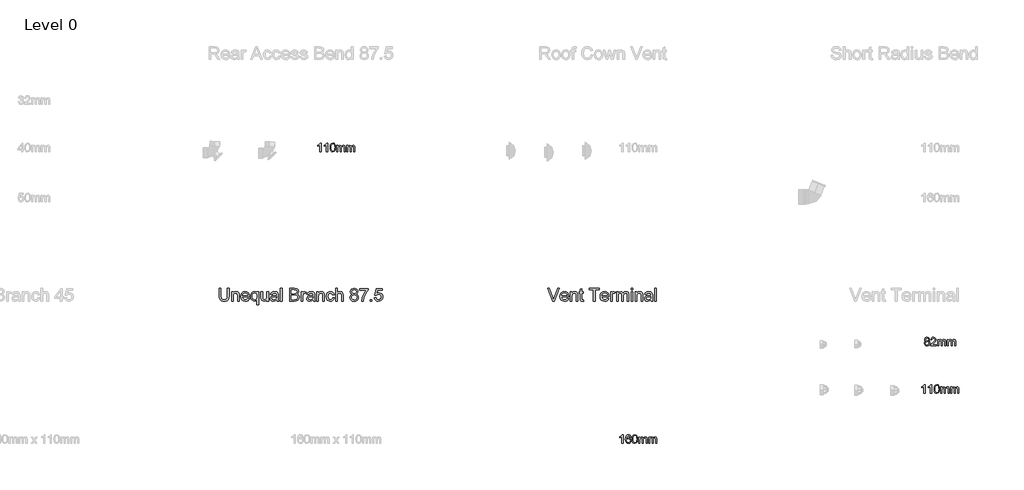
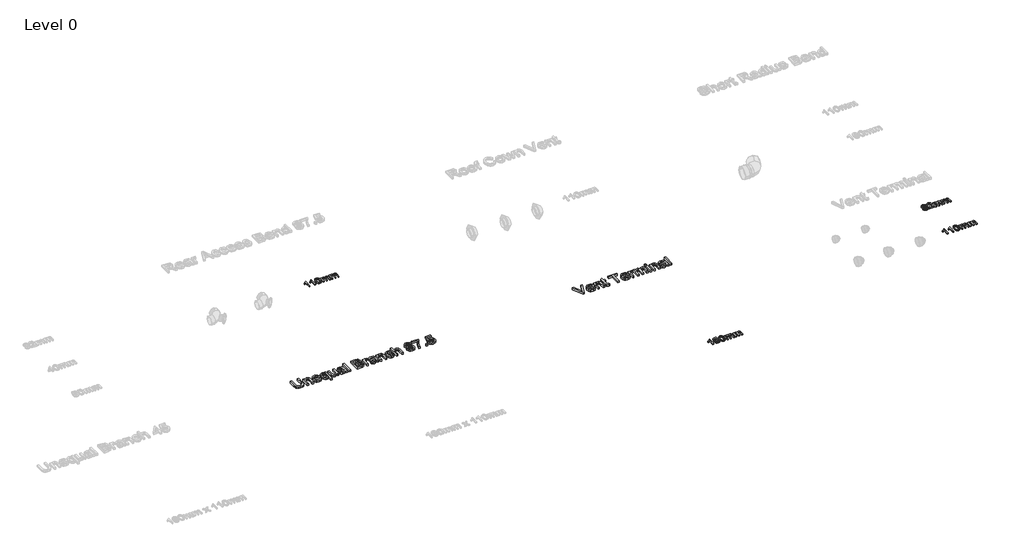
# One storey, part 7 of 28: 6 proxies.
"""IFC4 building model written with IfcOpenShell, lengths in millimetres."""

import ifcopenshell
import ifcopenshell.guid

model = None  # the IFC model being written
_history = None  # IfcOwnerHistory: only IFC2X3 demands one
_inside = {}  # id of a spatial element -> (the spatial element, [elements in it])
_under = {}  # id of a project, library or spatial element -> (it, [spatial elements below it])
_declared = {}  # id of a project -> (the project, [libraries it declares])
_typed = {}  # id of a type object -> (the type object, [elements of that type])
_made_of = {}  # id of a material, layer set ... -> (it, [elements and type objects made of it])


def new_model(schema):
    """Start an empty IFC model of exactly this schema.

    Asked for "IFC4X3", IfcOpenShell would pick the latest addendum, in which some entities
    have other attributes; the version numbers below select the first issue.
    IFC2X3 requires an IfcOwnerHistory on every rooted entity: one is made here for all.
    """
    global model, _history
    if schema == "IFC4X3":
        model = ifcopenshell.file(schema_version=(4, 3, 0, 0))
    else:
        model = ifcopenshell.file(schema=schema)
    _inside.clear()
    _under.clear()
    _declared.clear()
    _typed.clear()
    _made_of.clear()
    _history = None
    if model.schema == "IFC2X3":
        org = make("IfcOrganization", Name="unknown")
        user = make(
            "IfcPersonAndOrganization",
            ThePerson=make("IfcPerson", FamilyName="unknown"),
            TheOrganization=org,
        )
        app = make(
            "IfcApplication",
            ApplicationDeveloper=org,
            Version="unknown",
            ApplicationFullName="unknown",
            ApplicationIdentifier="unknown",
        )
        _history = make(
            "IfcOwnerHistory",
            OwningUser=user,
            OwningApplication=app,
            ChangeAction="ADDED",
            CreationDate=0,
        )
    return model


def make(cls, **values):
    """One entity of the class cls with the attributes given. An attribute that is None is left unset."""
    return model.create_entity(
        cls, **{name: value for name, value in values.items() if value is not None}
    )


def rooted(cls, **values):
    """An entity with a GlobalId (a new one), such as an element, a storey or a relation."""
    return make(cls, GlobalId=ifcopenshell.guid.new(), OwnerHistory=_history, **values)


def si_unit(unit_type, name, prefix=None):
    """IfcSIUnit, for example si_unit("LENGTHUNIT", "METRE", prefix="MILLI")."""
    return make("IfcSIUnit", UnitType=unit_type, Prefix=prefix, Name=name)


def assignment(units):
    """IfcUnitAssignment: the units of a project."""
    return None if units is None else make("IfcUnitAssignment", Units=units)


def point(xyz):
    """IfcCartesianPoint."""
    return None if xyz is None else make("IfcCartesianPoint", Coordinates=xyz)


def direction(xyz):
    """IfcDirection."""
    return None if xyz is None else make("IfcDirection", DirectionRatios=xyz)


def frame(location, z_axis=None, x_axis=None):
    """IfcAxis2Placement3D, a coordinate frame: its origin and axes. An axis left out is left unset."""
    return make(
        "IfcAxis2Placement3D",
        Location=point(location),
        Axis=direction(z_axis),
        RefDirection=direction(x_axis),
    )


def origin():
    """The frame at (0, 0, 0) with its axes left unset."""
    return frame((0.0, 0.0, 0.0))


def origin_with_axes():
    """The frame at (0, 0, 0) with the z axis (0, 0, 1) and the x axis (1, 0, 0) written out."""
    return frame((0.0, 0.0, 0.0), z_axis=(0.0, 0.0, 1.0), x_axis=(1.0, 0.0, 0.0))


def place(relative_to, where):
    """IfcLocalPlacement: puts the frame where relative to a parent placement (None: the world)."""
    return make(
        "IfcLocalPlacement", PlacementRelTo=relative_to, RelativePlacement=where
    )


def context(
    kind, dimensions, precision=None, world=None, true_north=None, identifier=None
):
    """IfcGeometricRepresentationContext, for example the 3D "Model" context."""
    return make(
        "IfcGeometricRepresentationContext",
        ContextIdentifier=identifier,
        ContextType=kind,
        CoordinateSpaceDimension=dimensions,
        Precision=precision,
        WorldCoordinateSystem=world,
        TrueNorth=true_north,
    )


def project(units=None, contexts=None):
    """IfcProject with its units and contexts."""
    return rooted(
        "IfcProject",
        Name="project",
        RepresentationContexts=contexts,
        UnitsInContext=assignment(units),
    )


def spatial(cls, under=None, at=None, **own):
    """A site, building, storey or space (cls), placed at a placement, below another one or the project."""
    s = rooted(cls, ObjectPlacement=at, **own)
    if under is not None:
        _under.setdefault(under.id(), (under, []))[1].append(s)
    return s


def polyline(points):
    """IfcPolyline through the points."""
    return make("IfcPolyline", Points=[point(p) for p in points])


def outline(outer, holes=None, kind="AREA"):
    """IfcArbitraryClosedProfileDef: a profile drawn as a closed curve; with holes, ...WithVoids."""
    if holes is None:
        return make("IfcArbitraryClosedProfileDef", ProfileType=kind, OuterCurve=outer)
    return make(
        "IfcArbitraryProfileDefWithVoids",
        ProfileType=kind,
        OuterCurve=outer,
        InnerCurves=holes,
    )


def extrude(swept, where, along, depth):
    """IfcExtrudedAreaSolid: the profile swept, set in the frame where, extruded along a direction by depth."""
    return make(
        "IfcExtrudedAreaSolid",
        SweptArea=swept,
        Position=where,
        ExtrudedDirection=direction(along),
        Depth=depth,
    )


def shape(context_of_items, identifier, shape_type, items):
    """IfcShapeRepresentation: the items that make up one representation, for example the "Body"."""
    return make(
        "IfcShapeRepresentation",
        ContextOfItems=context_of_items,
        RepresentationIdentifier=identifier,
        RepresentationType=shape_type,
        Items=items,
    )


def made_of(thing, what):
    """Note that an element or type object is made of a material, layer set ...; save() writes the relation."""
    if what is not None:
        _made_of.setdefault(what.id(), (what, []))[1].append(thing)
    return thing


def element(
    cls,
    number,
    at=None,
    inside=None,
    cuts=None,
    type_object=None,
    material=None,
    context=None,
    identifier="Body",
    shape_type=None,
    held_by="IfcProductDefinitionShape",
    body=None,
    shapes=None,
    **own,
):
    """One element of the class cls, such as IfcWall. Its Tag is "e" and its number.

    at: its placement. inside: the storey or other place that contains it. cuts: it is an
    opening in that element (IfcRelVoidsElement). A single representation is given by context,
    identifier, shape_type and body (its items); several are given by shapes. held_by: the class
    of the entity that holds the representations. save() writes the other relations.
    """
    e = rooted(cls, Tag="e%d" % number, ObjectPlacement=at, **own)
    if body is not None:
        shapes = [shape(context, identifier, shape_type, body)]
    if shapes is not None:
        e.Representation = make(held_by, Representations=shapes)
    if inside is not None:
        _inside.setdefault(inside.id(), (inside, []))[1].append(e)
    if cuts is not None:
        rooted(
            "IfcRelVoidsElement", RelatingBuildingElement=cuts, RelatedOpeningElement=e
        )
    if type_object is not None:
        _typed.setdefault(type_object.id(), (type_object, []))[1].append(e)
    return made_of(e, material)


def aggregate(whole, parts):
    """IfcRelAggregates: a whole, such as a stair, and the parts it consists of."""
    return rooted("IfcRelAggregates", RelatingObject=whole, RelatedObjects=parts)


def save(model, path):
    """Write the relations noted so far, then the file.

    IfcRelAggregates (storeys below a building ...), IfcRelContainedInSpatialStructure (elements
    in a storey), IfcRelDefinesByType, IfcRelAssociatesMaterial and IfcRelDeclares: one each for
    every whole, place, type object, material and project.
    """
    for whole, parts in _under.values():
        aggregate(whole, parts)
    for where, things in _inside.values():
        rooted(
            "IfcRelContainedInSpatialStructure",
            RelatedElements=things,
            RelatingStructure=where,
        )
    for kind, things in _typed.values():
        rooted("IfcRelDefinesByType", RelatedObjects=things, RelatingType=kind)
    for what, things in _made_of.values():
        rooted("IfcRelAssociatesMaterial", RelatedObjects=things, RelatingMaterial=what)
    for by, libraries in _declared.values():
        rooted("IfcRelDeclares", RelatingContext=by, RelatedDefinitions=libraries)
    model.write(path)


model = new_model("IFC4")

# Units and contexts
model_context = context("Model", 3, world=origin())
ifc_project = project(units=[si_unit("LENGTHUNIT", "METRE", prefix="MILLI")], contexts=[model_context])

# Site, building, storey
site = spatial("IfcSite", under=ifc_project)
building = spatial("IfcBuilding", under=site)
storey = spatial("IfcBuildingStorey", under=building, Name="Level 0", Elevation=0.0)

# Proxies
placement = place(None, origin())
element("IfcBuildingElementProxy", 1, Name="100mm Arial", ObjectType="100mm Arial", at=placement, inside=storey, context=model_context, shape_type="SweptSolid", body=[
    extrude(outline(polyline([(-3291.7293188, -162.2832696), (-3304.0370111, -162.2832696), (-3304.0370111, -85.5525004), (-3315.6956649, -93.8577889), (-3328.6523957, -100.0717312), (-3328.6523957, -88.4371158), (-3310.6115303, -76.9226927), (-3299.6620111, -63.8217312), (-3291.7293188, -63.8217312), (-3291.7293188, -162.2832696)])), origin_with_axes(), (0.0, 0.0, 1.0), 15.0),
    extrude(outline(polyline([(-3216.3447034, -162.2832696), (-3228.6523957, -162.2832696), (-3228.6523957, -85.5525004), (-3240.3110495, -93.8577889), (-3253.2677803, -100.0717312), (-3253.2677803, -88.4371158), (-3235.2269149, -76.9226927), (-3224.2773957, -63.8217312), (-3216.3447034, -63.8217312), (-3216.3447034, -162.2832696)])), origin_with_axes(), (0.0, 0.0, 1.0), 15.0),
    extrude(outline(polyline([(-3187.1139341, -113.8457696), (-3183.4961457, -85.5164427), (-3172.7509534, -69.1823081), (-3154.8062418, -63.8217312), (-3140.4312418, -66.9948081), (-3130.5033572, -76.1414427), (-3124.7341264, -90.7087504), (-3122.4985495, -113.8457696), (-3126.0802803, -142.0549042), (-3136.7894149, -158.4250965), (-3154.8062418, -163.8217312), (-3167.5947034, -161.4779812), (-3177.3062418, -154.4467312), (-3184.6620111, -137.7940869), (-3187.1139341, -113.8457696)]), holes=[polyline([(-3174.8062418, -113.8217312), (-3173.3639341, -133.1817071), (-3169.0370111, -144.386635), (-3162.5947034, -149.7321879), (-3154.8062418, -151.5140389), (-3147.0177803, -149.7261783), (-3140.5754726, -144.3625965), (-3136.2485495, -133.151659), (-3134.8062418, -113.8217312), (-3136.2004726, -94.8974523), (-3140.3831649, -83.605385), (-3146.8134534, -77.9984139), (-3154.9504726, -76.1294235), (-3162.6547995, -77.7760581), (-3168.8447034, -82.7159619), (-3173.3158572, -94.7111542), (-3174.8062418, -113.8217312)])]), origin_with_axes(), (0.0, 0.0, 1.0), 15.0),
    extrude(outline(polyline([(-3108.6523957, -162.2832696), (-3108.6523957, -89.9755773), (-3096.3447034, -89.9755773), (-3096.3447034, -101.8746158), (-3087.8831649, -92.1270196), (-3075.8398957, -88.4371158), (-3063.5081649, -92.199135), (-3056.7293188, -102.7400004), (-3047.1259534, -92.0128369), (-3034.9985495, -88.4371158), (-3025.7467466, -89.9244956), (-3018.9047995, -94.386635), (-3014.6770351, -101.9437264), (-3013.2677803, -112.7159619), (-3013.2677803, -162.2832696), (-3025.5754726, -162.2832696), (-3025.5754726, -118.0044235), (-3026.7172995, -107.7279812), (-3030.8519149, -102.667885), (-3037.8831649, -100.7448081), (-3049.9865303, -105.6726927), (-3054.8062418, -121.4659619), (-3054.8062418, -162.2832696), (-3067.1139341, -162.2832696), (-3067.1139341, -116.6342312), (-3069.9624918, -104.7111542), (-3079.3014341, -100.7448081), (-3088.4120111, -103.3890389), (-3094.4697034, -111.1294235), (-3096.3447034, -125.8169235), (-3096.3447034, -162.2832696), (-3108.6523957, -162.2832696)])), origin_with_axes(), (0.0, 0.0, 1.0), 15.0),
    extrude(outline(polyline([(-2994.8062418, -162.2832696), (-2994.8062418, -89.9755773), (-2982.4985495, -89.9755773), (-2982.4985495, -101.8746158), (-2974.0370111, -92.1270196), (-2961.9937418, -88.4371158), (-2949.6620111, -92.199135), (-2942.8831649, -102.7400004), (-2933.2797995, -92.0128369), (-2921.1523957, -88.4371158), (-2911.9005928, -89.9244956), (-2905.0586457, -94.386635), (-2900.8308813, -101.9437264), (-2899.4216264, -112.7159619), (-2899.4216264, -162.2832696), (-2911.7293188, -162.2832696), (-2911.7293188, -118.0044235), (-2912.8711457, -107.7279812), (-2917.0057611, -102.667885), (-2924.0370111, -100.7448081), (-2936.1403764, -105.6726927), (-2940.960088, -121.4659619), (-2940.960088, -162.2832696), (-2953.2677803, -162.2832696), (-2953.2677803, -116.6342312), (-2956.116338, -104.7111542), (-2965.4552803, -100.7448081), (-2974.5658572, -103.3890389), (-2980.6235495, -111.1294235), (-2982.4985495, -125.8169235), (-2982.4985495, -162.2832696), (-2994.8062418, -162.2832696)])), origin_with_axes(), (0.0, 0.0, 1.0), 15.0),
])
element("IfcBuildingElementProxy", 2, Name="100mm Arial", ObjectType="100mm Arial", at=placement, inside=storey, context=model_context, shape_type="SweptSolid", body=[
    extrude(outline(polyline([(208.2706812, -3542.2832696), (195.9629889, -3542.2832696), (195.9629889, -3465.5525004), (184.3043351, -3473.8577889), (171.3476043, -3480.0717312), (171.3476043, -3468.4371158), (189.3884697, -3456.9226927), (200.3379889, -3443.8217312), (208.2706812, -3443.8217312), (208.2706812, -3542.2832696)])), origin_with_axes(), (0.0, 0.0, 1.0), 15.0),
    extrude(outline(polyline([(300.5783736, -3469.9755773), (288.2706812, -3471.5140389), (283.6072197, -3461.2496158), (271.2754889, -3456.1294235), (260.1697197, -3459.1101927), (251.7682774, -3470.3000965), (248.2706812, -3492.2351927), (259.1240466, -3482.4154812), (272.5735659, -3479.2063465), (283.9437582, -3481.3998562), (293.4870274, -3487.980385), (299.9593832, -3498.0344715), (302.1168351, -3510.6486542), (298.0543351, -3527.6318273), (286.8764505, -3539.6510581), (270.7466428, -3543.8217312), (256.7833014, -3541.0573081), (245.6625082, -3532.7640389), (238.3878687, -3518.1246158), (235.9629889, -3496.3217312), (238.6552966, -3471.80851), (246.7322197, -3455.0476927), (257.7598639, -3446.6282215), (272.0447197, -3443.8217312), (282.8439986, -3445.55851), (291.4918351, -3450.7688465), (297.5495274, -3459.0440869), (300.5783736, -3469.9755773)]), holes=[polyline([(248.2706812, -3510.4563465), (251.1192389, -3521.1174042), (258.6913543, -3528.8577889), (269.7851043, -3531.5140389), (277.9070995, -3530.1378369), (284.2923159, -3526.0092312), (288.4299361, -3519.5188465), (289.8091428, -3511.0573081), (288.4479649, -3502.9353129), (284.3644312, -3496.7424042), (269.2802966, -3491.5140389), (254.3884697, -3496.7424042), (249.8001284, -3502.7850725), (248.2706812, -3510.4563465)])]), origin_with_axes(), (0.0, 0.0, 1.0), 15.0),
    extrude(outline(polyline([(312.8860659, -3493.8457696), (316.5038543, -3465.5164427), (327.2490466, -3449.1823081), (345.1937582, -3443.8217312), (359.5687582, -3446.9948081), (369.4966428, -3456.1414427), (375.2658736, -3470.7087504), (377.5014505, -3493.8457696), (373.9197197, -3522.0549042), (363.2105851, -3538.4250965), (345.1937582, -3543.8217312), (332.4052966, -3541.4779812), (322.6937582, -3534.4467312), (315.3379889, -3517.7940869), (312.8860659, -3493.8457696)]), holes=[polyline([(325.1937582, -3493.8217312), (326.6360659, -3513.1817071), (330.9629889, -3524.386635), (337.4052966, -3529.7321879), (345.1937582, -3531.5140389), (352.9822197, -3529.7261783), (359.4245274, -3524.3625965), (363.7514505, -3513.151659), (365.1937582, -3493.8217312), (363.7995274, -3474.8974523), (359.6168351, -3463.605385), (353.1865466, -3457.9984139), (345.0495274, -3456.1294235), (337.3452005, -3457.7760581), (331.1552966, -3462.7159619), (326.6841428, -3474.7111542), (325.1937582, -3493.8217312)])]), origin_with_axes(), (0.0, 0.0, 1.0), 15.0),
    extrude(outline(polyline([(391.3476043, -3542.2832696), (391.3476043, -3469.9755773), (403.6552966, -3469.9755773), (403.6552966, -3481.8746158), (412.1168351, -3472.1270196), (424.1601043, -3468.4371158), (436.4918351, -3472.199135), (443.2706812, -3482.7400004), (452.8740466, -3472.0128369), (465.0014505, -3468.4371158), (474.2532534, -3469.9244956), (481.0952005, -3474.386635), (485.3229649, -3481.9437264), (486.7322197, -3492.7159619), (486.7322197, -3542.2832696), (474.4245274, -3542.2832696), (474.4245274, -3498.0044235), (473.2827005, -3487.7279812), (469.1480851, -3482.667885), (462.1168351, -3480.7448081), (450.0134697, -3485.6726927), (445.1937582, -3501.4659619), (445.1937582, -3542.2832696), (432.8860659, -3542.2832696), (432.8860659, -3496.6342312), (430.0375082, -3484.7111542), (420.6985659, -3480.7448081), (411.5879889, -3483.3890389), (405.5302966, -3491.1294235), (403.6552966, -3505.8169235), (403.6552966, -3542.2832696), (391.3476043, -3542.2832696)])), origin_with_axes(), (0.0, 0.0, 1.0), 15.0),
    extrude(outline(polyline([(505.1937582, -3542.2832696), (505.1937582, -3469.9755773), (517.5014505, -3469.9755773), (517.5014505, -3481.8746158), (525.9629889, -3472.1270196), (538.0062582, -3468.4371158), (550.3379889, -3472.199135), (557.1168351, -3482.7400004), (566.7202005, -3472.0128369), (578.8476043, -3468.4371158), (588.0994072, -3469.9244956), (594.9413543, -3474.386635), (599.1691187, -3481.9437264), (600.5783736, -3492.7159619), (600.5783736, -3542.2832696), (588.2706812, -3542.2832696), (588.2706812, -3498.0044235), (587.1288543, -3487.7279812), (582.9942389, -3482.667885), (575.9629889, -3480.7448081), (563.8596236, -3485.6726927), (559.039912, -3501.4659619), (559.039912, -3542.2832696), (546.7322197, -3542.2832696), (546.7322197, -3496.6342312), (543.883662, -3484.7111542), (534.5447197, -3480.7448081), (525.4341428, -3483.3890389), (519.3764505, -3491.1294235), (517.5014505, -3505.8169235), (517.5014505, -3542.2832696), (505.1937582, -3542.2832696)])), origin_with_axes(), (0.0, 0.0, 1.0), 15.0),
])
element("IfcBuildingElementProxy", 3, Name="100mm Arial", ObjectType="100mm Arial", at=placement, inside=storey, context=model_context, shape_type="SweptSolid", body=[
    extrude(outline(polyline([(3717.7418351, -2359.118826), (3706.5278928, -2351.4745952), (3702.8860659, -2339.5755567), (3704.8692389, -2329.9541625), (3710.8187582, -2322.0034413), (3720.0675562, -2316.6669029), (3731.9485659, -2314.8880567), (3743.9016909, -2316.7089702), (3753.2706812, -2322.1717106), (3759.3283736, -2330.2486337), (3761.3476043, -2339.9120952), (3757.7538543, -2351.5106529), (3746.852412, -2359.118826), (3759.9413543, -2368.7702683), (3764.4245274, -2384.695749), (3762.2009697, -2396.462576), (3755.5302966, -2406.1861337), (3745.2298159, -2412.712576), (3732.1168351, -2414.8880567), (3719.0038543, -2412.7035615), (3708.7033736, -2406.150076), (3702.0327005, -2396.3333692), (3699.8091428, -2384.3592106), (3704.4726043, -2368.0611337), (3717.7418351, -2359.118826)]), holes=[polyline([(3715.1937582, -2339.9361337), (3719.5567389, -2349.5995952), (3732.2610659, -2353.3495952), (3744.7129889, -2349.6236337), (3749.039912, -2340.4890183), (3744.5687582, -2331.0298837), (3732.1168351, -2327.195749), (3719.6288543, -2330.945749), (3715.1937582, -2339.9361337)]), polyline([(3712.1168351, -2383.9265183), (3714.1721236, -2393.1933452), (3721.4437582, -2400.1284413), (3732.2129889, -2402.5803644), (3746.8764505, -2397.4241144), (3752.1168351, -2384.3111337), (3746.7081812, -2370.945749), (3740.2778928, -2366.9794029), (3731.8043351, -2365.6572875), (3717.321162, -2370.8736337), (3712.1168351, -2383.9265183)])]), origin_with_axes(), (0.0, 0.0, 1.0), 15.0),
    extrude(outline(polyline([(3838.2706812, -2401.0419029), (3838.2706812, -2413.3495952), (3773.6552966, -2413.3495952), (3774.977412, -2404.8640183), (3782.4533736, -2391.7991144), (3797.8620274, -2377.5322875), (3819.1120274, -2357.0274798), (3824.4245274, -2343.0851721), (3819.4125082, -2331.7991144), (3806.3235659, -2327.195749), (3792.6817389, -2331.6909413), (3787.5014505, -2344.118826), (3775.1937582, -2342.5803644), (3778.1775322, -2330.6753163), (3784.6288543, -2321.9794029), (3794.2111861, -2316.6608933), (3806.5879889, -2314.8880567), (3819.0549361, -2316.8592106), (3828.6192389, -2322.7726721), (3834.7039745, -2331.6068067), (3836.7322197, -2342.3399798), (3834.5447197, -2354.0106529), (3827.2730851, -2366.0779606), (3809.6408736, -2382.9409413), (3795.4822197, -2394.7798837), (3789.9293351, -2401.0419029), (3838.2706812, -2401.0419029)])), origin_with_axes(), (0.0, 0.0, 1.0), 15.0),
    extrude(outline(polyline([(3853.6552966, -2413.3495952), (3853.6552966, -2341.0419029), (3865.9629889, -2341.0419029), (3865.9629889, -2352.9409413), (3874.4245274, -2343.1933452), (3886.4677966, -2339.5034413), (3898.7995274, -2343.2654606), (3905.5783736, -2353.806326), (3915.1817389, -2343.0791625), (3927.3091428, -2339.5034413), (3936.5609457, -2340.9908212), (3943.4028928, -2345.4529606), (3947.6306572, -2353.0100519), (3949.039912, -2363.7822875), (3949.039912, -2413.3495952), (3936.7322197, -2413.3495952), (3936.7322197, -2369.070749), (3935.5903928, -2358.7943067), (3931.4557774, -2353.7342106), (3924.4245274, -2351.8111337), (3912.321162, -2356.7390183), (3907.5014505, -2372.5322875), (3907.5014505, -2413.3495952), (3895.1937582, -2413.3495952), (3895.1937582, -2367.7005567), (3892.3452005, -2355.7774798), (3883.0062582, -2351.8111337), (3873.8956812, -2354.4553644), (3867.8379889, -2362.195749), (3865.9629889, -2376.883249), (3865.9629889, -2413.3495952), (3853.6552966, -2413.3495952)])), origin_with_axes(), (0.0, 0.0, 1.0), 15.0),
    extrude(outline(polyline([(3967.5014505, -2413.3495952), (3967.5014505, -2341.0419029), (3979.8091428, -2341.0419029), (3979.8091428, -2352.9409413), (3988.2706812, -2343.1933452), (4000.3139505, -2339.5034413), (4012.6456812, -2343.2654606), (4019.4245274, -2353.806326), (4029.0278928, -2343.0791625), (4041.1552966, -2339.5034413), (4050.4070995, -2340.9908212), (4057.2490466, -2345.4529606), (4061.4768111, -2353.0100519), (4062.8860659, -2363.7822875), (4062.8860659, -2413.3495952), (4050.5783736, -2413.3495952), (4050.5783736, -2369.070749), (4049.4365466, -2358.7943067), (4045.3019312, -2353.7342106), (4038.2706812, -2351.8111337), (4026.1673159, -2356.7390183), (4021.3476043, -2372.5322875), (4021.3476043, -2413.3495952), (4009.039912, -2413.3495952), (4009.039912, -2367.7005567), (4006.1913543, -2355.7774798), (3996.852412, -2351.8111337), (3987.7418351, -2354.4553644), (3981.6841428, -2362.195749), (3979.8091428, -2376.883249), (3979.8091428, -2413.3495952), (3967.5014505, -2413.3495952)])), origin_with_axes(), (0.0, 0.0, 1.0), 15.0),
])
element("IfcBuildingElementProxy", 4, Name="100mm Arial", ObjectType="100mm Arial", at=placement, inside=storey, context=model_context, shape_type="SweptSolid", body=[
    extrude(outline(polyline([(3708.2706812, -2962.2832696), (3695.9629889, -2962.2832696), (3695.9629889, -2885.5525004), (3684.3043351, -2893.8577889), (3671.3476043, -2900.0717312), (3671.3476043, -2888.4371158), (3689.3884697, -2876.9226927), (3700.3379889, -2863.8217312), (3708.2706812, -2863.8217312), (3708.2706812, -2962.2832696)])), origin_with_axes(), (0.0, 0.0, 1.0), 15.0),
    extrude(outline(polyline([(3783.6552966, -2962.2832696), (3771.3476043, -2962.2832696), (3771.3476043, -2885.5525004), (3759.6889505, -2893.8577889), (3746.7322197, -2900.0717312), (3746.7322197, -2888.4371158), (3764.7730851, -2876.9226927), (3775.7226043, -2863.8217312), (3783.6552966, -2863.8217312), (3783.6552966, -2962.2832696)])), origin_with_axes(), (0.0, 0.0, 1.0), 15.0),
    extrude(outline(polyline([(3812.8860659, -2913.8457696), (3816.5038543, -2885.5164427), (3827.2490466, -2869.1823081), (3845.1937582, -2863.8217312), (3859.5687582, -2866.9948081), (3869.4966428, -2876.1414427), (3875.2658736, -2890.7087504), (3877.5014505, -2913.8457696), (3873.9197197, -2942.0549042), (3863.2105851, -2958.4250965), (3845.1937582, -2963.8217312), (3832.4052966, -2961.4779812), (3822.6937582, -2954.4467312), (3815.3379889, -2937.7940869), (3812.8860659, -2913.8457696)]), holes=[polyline([(3825.1937582, -2913.8217312), (3826.6360659, -2933.1817071), (3830.9629889, -2944.386635), (3837.4052966, -2949.7321879), (3845.1937582, -2951.5140389), (3852.9822197, -2949.7261783), (3859.4245274, -2944.3625965), (3863.7514505, -2933.151659), (3865.1937582, -2913.8217312), (3863.7995274, -2894.8974523), (3859.6168351, -2883.605385), (3853.1865466, -2877.9984139), (3845.0495274, -2876.1294235), (3837.3452005, -2877.7760581), (3831.1552966, -2882.7159619), (3826.6841428, -2894.7111542), (3825.1937582, -2913.8217312)])]), origin_with_axes(), (0.0, 0.0, 1.0), 15.0),
    extrude(outline(polyline([(3891.3476043, -2962.2832696), (3891.3476043, -2889.9755773), (3903.6552966, -2889.9755773), (3903.6552966, -2901.8746158), (3912.1168351, -2892.1270196), (3924.1601043, -2888.4371158), (3936.4918351, -2892.199135), (3943.2706812, -2902.7400004), (3952.8740466, -2892.0128369), (3965.0014505, -2888.4371158), (3974.2532534, -2889.9244956), (3981.0952005, -2894.386635), (3985.3229649, -2901.9437264), (3986.7322197, -2912.7159619), (3986.7322197, -2962.2832696), (3974.4245274, -2962.2832696), (3974.4245274, -2918.0044235), (3973.2827005, -2907.7279812), (3969.1480851, -2902.667885), (3962.1168351, -2900.7448081), (3950.0134697, -2905.6726927), (3945.1937582, -2921.4659619), (3945.1937582, -2962.2832696), (3932.8860659, -2962.2832696), (3932.8860659, -2916.6342312), (3930.0375082, -2904.7111542), (3920.6985659, -2900.7448081), (3911.5879889, -2903.3890389), (3905.5302966, -2911.1294235), (3903.6552966, -2925.8169235), (3903.6552966, -2962.2832696), (3891.3476043, -2962.2832696)])), origin_with_axes(), (0.0, 0.0, 1.0), 15.0),
    extrude(outline(polyline([(4005.1937582, -2962.2832696), (4005.1937582, -2889.9755773), (4017.5014505, -2889.9755773), (4017.5014505, -2901.8746158), (4025.9629889, -2892.1270196), (4038.0062582, -2888.4371158), (4050.3379889, -2892.199135), (4057.1168351, -2902.7400004), (4066.7202005, -2892.0128369), (4078.8476043, -2888.4371158), (4088.0994072, -2889.9244956), (4094.9413543, -2894.386635), (4099.1691187, -2901.9437264), (4100.5783736, -2912.7159619), (4100.5783736, -2962.2832696), (4088.2706812, -2962.2832696), (4088.2706812, -2918.0044235), (4087.1288543, -2907.7279812), (4082.9942389, -2902.667885), (4075.9629889, -2900.7448081), (4063.8596236, -2905.6726927), (4059.039912, -2921.4659619), (4059.039912, -2962.2832696), (4046.7322197, -2962.2832696), (4046.7322197, -2916.6342312), (4043.883662, -2904.7111542), (4034.5447197, -2900.7448081), (4025.4341428, -2903.3890389), (4019.3764505, -2911.1294235), (4017.5014505, -2925.8169235), (4017.5014505, -2962.2832696), (4005.1937582, -2962.2832696)])), origin_with_axes(), (0.0, 0.0, 1.0), 15.0),
])
element("IfcBuildingElementProxy", 5, Name="150mm Arial", ObjectType="150mm Arial", at=placement, inside=storey, context=model_context, shape_type="SweptSolid", body=[
    extrude(outline(polyline([(-4375.9895281, -1747.0931704), (-4357.5279897, -1747.0931704), (-4357.5279897, -1832.2974973), (-4362.5400089, -1867.6160069), (-4369.5622445, -1879.4699733), (-4380.6049127, -1888.8900454), (-4395.695057, -1895.0423891), (-4414.8597204, -1897.0931704), (-4433.6052132, -1895.3083146), (-4448.5916916, -1889.9537473), (-4459.8236627, -1881.2142641), (-4467.3056339, -1869.2746608), (-4471.5108622, -1853.2605382), (-4472.912605, -1832.2974973), (-4472.912605, -1747.0931704), (-4454.4510666, -1747.0931704), (-4454.4510666, -1831.6484589), (-4450.8092397, -1859.7914877), (-4445.8603214, -1867.7917882), (-4438.2972204, -1873.7277858), (-4416.5904897, -1878.6316319), (-4397.8134464, -1876.2067521), (-4385.3284704, -1868.9321127), (-4378.3242637, -1854.7614396), (-4375.9895281, -1831.6484589), (-4375.9895281, -1747.0931704)])), origin_with_axes(), (0.0, 0.0, 1.0), 25.0),
    extrude(outline(polyline([(-4327.5279897, -1894.7854781), (-4327.5279897, -1786.3239396), (-4309.0664512, -1786.3239396), (-4309.0664512, -1801.4681704), (-4294.9498647, -1788.3792281), (-4275.6770281, -1784.0162473), (-4258.2431339, -1787.5318723), (-4246.3440954, -1796.7626415), (-4240.8092397, -1810.3383627), (-4239.835682, -1828.1869204), (-4239.835682, -1894.7854781), (-4258.2972204, -1894.7854781), (-4258.2972204, -1830.6749012), (-4260.4246243, -1814.3407665), (-4267.9426531, -1805.7049492), (-4280.616932, -1802.4777858), (-4291.4297324, -1804.2896848), (-4300.64698, -1809.7253819), (-4306.9615834, -1820.2271848), (-4309.0664512, -1837.2374012), (-4309.0664512, -1894.7854781), (-4327.5279897, -1894.7854781)])), origin_with_axes(), (0.0, 0.0, 1.0), 25.0),
    extrude(outline(polyline([(-4138.5135666, -1862.4777858), (-4120.412605, -1864.7854781), (-4126.9345401, -1878.4243002), (-4137.3416916, -1888.6196127), (-4151.3996844, -1894.974781), (-4168.8741435, -1897.0931704), (-4190.5358022, -1893.4378218), (-4207.2034704, -1882.4717762), (-4217.8314752, -1864.9071728), (-4221.3741435, -1841.4561512), (-4217.7954175, -1817.2163675), (-4207.0592397, -1799.0883627), (-4190.616932, -1787.7842762), (-4169.9198166, -1784.0162473), (-4149.8672324, -1787.7752617), (-4133.8440954, -1799.052305), (-4123.3377853, -1817.1442521), (-4119.835682, -1841.3479781), (-4119.943855, -1846.3239396), (-4202.912605, -1846.3239396), (-4199.7169921, -1860.1430502), (-4192.2936147, -1870.302305), (-4181.5799728, -1876.5493002), (-4168.5135666, -1878.6316319), (-4150.412605, -1874.7734589), (-4138.5135666, -1862.4777858)]), holes=[polyline([(-4202.912605, -1827.8624012), (-4138.2972204, -1827.8624012), (-4140.7942156, -1818.1087954), (-4145.6890473, -1811.1316319), (-4156.4522685, -1804.6412473), (-4169.991932, -1802.4777858), (-4182.436343, -1804.2040478), (-4192.726307, -1809.3828339), (-4199.8792517, -1817.4552497), (-4202.912605, -1827.8624012)])]), origin_with_axes(), (0.0, 0.0, 1.0), 25.0),
    extrude(outline(polyline([(-4034.4510666, -1936.3239396), (-4034.4510666, -1880.0018242), (-4046.1698166, -1892.2253819), (-4062.179432, -1897.0931704), (-4079.7305137, -1893.2485189), (-4094.6674127, -1881.7145646), (-4104.8897685, -1863.4828939), (-4108.2972204, -1839.5450935), (-4102.8885666, -1810.302305), (-4096.2629656, -1798.9261031), (-4087.2034704, -1790.6869204), (-4076.4312348, -1785.6839156), (-4064.6674127, -1784.0162473), (-4047.5039512, -1789.1905262), (-4034.4510666, -1804.7133627), (-4034.4510666, -1786.3239396), (-4015.9895281, -1786.3239396), (-4015.9895281, -1936.3239396), (-4034.4510666, -1936.3239396)]), holes=[polyline([(-4089.835682, -1840.5547089), (-4087.7578574, -1857.2133627), (-4081.5243839, -1869.1124012), (-4072.3882661, -1876.2518242), (-4061.6025089, -1878.6316319), (-4051.2674728, -1876.3690117), (-4042.4739031, -1869.5811512), (-4036.4567757, -1858.1688915), (-4034.4510666, -1842.0330742), (-4036.5649488, -1824.7839757), (-4042.9065954, -1812.41168), (-4052.0967997, -1804.9612593), (-4062.756355, -1802.4777858), (-4073.217593, -1804.7899853), (-4081.9570762, -1811.7265839), (-4087.8660305, -1823.5580141), (-4089.835682, -1840.5547089)])]), origin_with_axes(), (0.0, 0.0, 1.0), 25.0),
    extrude(outline(polyline([(-3919.0664512, -1894.7854781), (-3919.0664512, -1876.1436512), (-3933.5255858, -1891.8557906), (-3952.3837589, -1897.0931704), (-3969.7455377, -1893.4152858), (-3981.7166916, -1884.1845165), (-3987.2154897, -1870.5907665), (-3988.2972204, -1853.427305), (-3988.2972204, -1786.3239396), (-3969.835682, -1786.3239396), (-3969.835682, -1844.7374012), (-3968.7178935, -1863.5595165), (-3961.4162108, -1874.6111992), (-3947.6602012, -1878.6316319), (-3932.2455377, -1874.521055), (-3922.0592397, -1863.3251415), (-3919.0664512, -1842.7542281), (-3919.0664512, -1786.3239396), (-3900.6049127, -1786.3239396), (-3900.6049127, -1894.7854781), (-3919.0664512, -1894.7854781)])), origin_with_axes(), (0.0, 0.0, 1.0), 25.0),
    extrude(outline(polyline([(-3805.9895281, -1880.9393242), (-3823.8921723, -1893.4513435), (-3843.6698166, -1897.0931704), (-3859.0980017, -1894.9026656), (-3870.4787108, -1888.3311512), (-3877.4964392, -1878.3521848), (-3879.835682, -1865.9393242), (-3876.3020281, -1851.3359589), (-3867.0171723, -1840.7349973), (-3854.0904897, -1834.677305), (-3838.116932, -1831.9008627), (-3806.0977012, -1825.5547089), (-3805.9895281, -1821.4441319), (-3807.2605618, -1813.2049492), (-3811.0736627, -1807.8143242), (-3819.601307, -1803.8119204), (-3831.4823166, -1802.4777858), (-3850.1602012, -1806.0294685), (-3859.0664512, -1818.6316319), (-3877.5279897, -1816.3239396), (-3869.5412108, -1798.2950935), (-3853.45948, -1787.7301896), (-3829.1025089, -1784.0162473), (-3806.7287108, -1787.2974973), (-3794.0904897, -1795.53668), (-3788.429432, -1808.0667281), (-3787.5279897, -1824.2205742), (-3787.5279897, -1847.1893242), (-3786.5904897, -1879.2626415), (-3782.912605, -1894.7854781), (-3801.3741435, -1894.7854781), (-3805.9895281, -1880.9393242)]), holes=[polyline([(-3805.9895281, -1844.0162473), (-3835.773182, -1849.677305), (-3851.6565954, -1852.6700935), (-3858.850105, -1857.5378819), (-3861.3741435, -1864.6412473), (-3855.8753454, -1874.6292281), (-3839.7395281, -1878.6316319), (-3821.0616435, -1874.2145646), (-3809.0183743, -1863.5234589), (-3806.0977012, -1849.2446127), (-3805.9895281, -1844.0162473)])]), origin_with_axes(), (0.0, 0.0, 1.0), 25.0),
    extrude(outline(polyline([(-3762.1433743, -1894.7854781), (-3762.1433743, -1747.0931704), (-3743.6818358, -1747.0931704), (-3743.6818358, -1894.7854781), (-3762.1433743, -1894.7854781)])), origin_with_axes(), (0.0, 0.0, 1.0), 25.0),
    extrude(outline(polyline([(-3655.9895281, -1894.7854781), (-3655.9895281, -1747.0931704), (-3599.631355, -1747.0931704), (-3572.0291916, -1751.4381223), (-3562.7533502, -1756.950442), (-3555.7311147, -1764.7974973), (-3549.835682, -1783.6917281), (-3554.7936147, -1800.9453339), (-3569.7755858, -1814.0162473), (-3559.3143478, -1819.4789877), (-3551.58448, -1827.7902858), (-3546.811343, -1838.4002617), (-3545.2202973, -1850.7590358), (-3549.5652493, -1870.6087954), (-3560.3284704, -1884.7434108), (-3576.3921723, -1892.2434108), (-3600.0640473, -1894.7854781), (-3655.9895281, -1894.7854781)]), holes=[polyline([(-3637.5279897, -1876.3239396), (-3599.6674127, -1876.3239396), (-3585.9654897, -1875.6027858), (-3574.3729416, -1871.5823531), (-3566.6926531, -1863.3792281), (-3563.6818358, -1850.9393242), (-3567.2154897, -1836.5883627), (-3578.663807, -1828.0246608), (-3601.4702973, -1825.5547089), (-3637.5279897, -1825.5547089), (-3637.5279897, -1876.3239396)]), polyline([(-3637.5279897, -1807.0931704), (-3603.8140473, -1807.0931704), (-3584.1265473, -1805.5066319), (-3572.2815954, -1798.6736992), (-3568.2972204, -1786.6484589), (-3572.0111627, -1774.6051896), (-3582.648182, -1767.4837954), (-3606.3741435, -1765.5547089), (-3637.5279897, -1765.5547089), (-3637.5279897, -1807.0931704)])]), origin_with_axes(), (0.0, 0.0, 1.0), 25.0),
    extrude(outline(polyline([(-3522.1433743, -1894.7854781), (-3522.1433743, -1786.3239396), (-3505.9895281, -1786.3239396), (-3505.9895281, -1802.3696127), (-3494.523182, -1787.5859589), (-3482.9847204, -1784.0162473), (-3464.4510666, -1789.7133627), (-3470.616932, -1806.2638435), (-3483.5977012, -1802.4777858), (-3494.0364031, -1806.1196127), (-3500.6890473, -1816.2157665), (-3503.6818358, -1837.7782665), (-3503.6818358, -1894.7854781), (-3522.1433743, -1894.7854781)])), origin_with_axes(), (0.0, 0.0, 1.0), 25.0),
    extrude(outline(polyline([(-3383.6818358, -1880.9393242), (-3401.58448, -1893.4513435), (-3421.3621243, -1897.0931704), (-3436.7903094, -1894.9026656), (-3448.1710185, -1888.3311512), (-3455.1887469, -1878.3521848), (-3457.5279897, -1865.9393242), (-3453.9943358, -1851.3359589), (-3444.70948, -1840.7349973), (-3431.7827973, -1834.677305), (-3415.8092397, -1831.9008627), (-3383.7900089, -1825.5547089), (-3383.6818358, -1821.4441319), (-3384.9528695, -1813.2049492), (-3388.7659704, -1807.8143242), (-3397.2936147, -1803.8119204), (-3409.1746243, -1802.4777858), (-3427.8525089, -1806.0294685), (-3436.7587589, -1818.6316319), (-3455.2202973, -1816.3239396), (-3447.2335185, -1798.2950935), (-3431.1517877, -1787.7301896), (-3406.7948166, -1784.0162473), (-3384.4210185, -1787.2974973), (-3371.7827973, -1795.53668), (-3366.1217397, -1808.0667281), (-3365.2202973, -1824.2205742), (-3365.2202973, -1847.1893242), (-3364.2827973, -1879.2626415), (-3360.6049127, -1894.7854781), (-3379.0664512, -1894.7854781), (-3383.6818358, -1880.9393242)]), holes=[polyline([(-3383.6818358, -1844.0162473), (-3413.4654897, -1849.677305), (-3429.3489031, -1852.6700935), (-3436.5424127, -1857.5378819), (-3439.0664512, -1864.6412473), (-3433.5676531, -1874.6292281), (-3417.4318358, -1878.6316319), (-3398.7539512, -1874.2145646), (-3386.710682, -1863.5234589), (-3383.7900089, -1849.2446127), (-3383.6818358, -1844.0162473)])]), origin_with_axes(), (0.0, 0.0, 1.0), 25.0),
    extrude(outline(polyline([(-3339.835682, -1894.7854781), (-3339.835682, -1786.3239396), (-3321.3741435, -1786.3239396), (-3321.3741435, -1801.4681704), (-3307.257557, -1788.3792281), (-3287.9847204, -1784.0162473), (-3270.5508262, -1787.5318723), (-3258.6517877, -1796.7626415), (-3253.116932, -1810.3383627), (-3252.1433743, -1828.1869204), (-3252.1433743, -1894.7854781), (-3270.6049127, -1894.7854781), (-3270.6049127, -1830.6749012), (-3272.7323166, -1814.3407665), (-3280.2503454, -1805.7049492), (-3292.9246243, -1802.4777858), (-3303.7374247, -1804.2896848), (-3312.9546723, -1809.7253819), (-3319.2692757, -1820.2271848), (-3321.3741435, -1837.2374012), (-3321.3741435, -1894.7854781), (-3339.835682, -1894.7854781)])), origin_with_axes(), (0.0, 0.0, 1.0), 25.0),
    extrude(outline(polyline([(-3157.5279897, -1855.5547089), (-3139.0664512, -1857.8624012), (-3144.2136868, -1874.2821728), (-3153.8861627, -1886.6905262), (-3167.1734223, -1894.4925093), (-3183.1650089, -1897.0931704), (-3202.8029296, -1893.4648651), (-3218.1589993, -1882.5799492), (-3228.0703574, -1864.9161872), (-3231.3741435, -1840.9513435), (-3225.7311147, -1810.2842762), (-3218.6097204, -1798.7863795), (-3208.5315954, -1790.5787473), (-3196.4748046, -1785.6568723), (-3183.4174127, -1784.0162473), (-3167.8179536, -1786.2698531), (-3155.3464993, -1793.0306704), (-3146.3996844, -1803.9381223), (-3141.3741435, -1818.6316319), (-3159.835682, -1820.9393242), (-3168.3993839, -1807.1111992), (-3183.273182, -1802.4777858), (-3195.2037709, -1804.7584348), (-3204.6734223, -1811.6003819), (-3210.8528094, -1823.3732185), (-3212.912605, -1840.4465358), (-3210.8978815, -1857.7497209), (-3204.8537108, -1869.5631223), (-3195.5553334, -1876.3645045), (-3183.7779897, -1878.6316319), (-3174.218194, -1877.2163675), (-3166.3801531, -1872.9705742), (-3160.6785305, -1865.786079), (-3157.5279897, -1855.5547089)])), origin_with_axes(), (0.0, 0.0, 1.0), 25.0),
    extrude(outline(polyline([(-3122.912605, -1894.7854781), (-3122.912605, -1747.0931704), (-3104.4510666, -1747.0931704), (-3104.4510666, -1801.396055), (-3090.0550329, -1788.3611992), (-3072.3236627, -1784.0162473), (-3051.5904897, -1788.7578339), (-3039.006355, -1801.864805), (-3035.2202973, -1826.1316319), (-3035.2202973, -1894.7854781), (-3053.6818358, -1894.7854781), (-3053.6818358, -1828.0426896), (-3055.1511868, -1816.4861992), (-3059.5592397, -1808.5715358), (-3066.662605, -1804.0012233), (-3076.2178935, -1802.4777858), (-3091.3440954, -1806.5883627), (-3101.4402493, -1817.7301896), (-3104.4510666, -1837.1652858), (-3104.4510666, -1894.7854781), (-3122.912605, -1894.7854781)])), origin_with_axes(), (0.0, 0.0, 1.0), 25.0),
    extrude(outline(polyline([(-2929.8597204, -1813.4393242), (-2946.6806339, -1801.9729781), (-2952.1433743, -1784.1244204), (-2949.1686147, -1769.692329), (-2940.2443358, -1757.7662473), (-2926.3711387, -1749.7614396), (-2908.5496243, -1747.0931704), (-2890.6199368, -1749.8245406), (-2876.5664512, -1758.0186512), (-2867.4799127, -1770.1340358), (-2864.4510666, -1784.6292281), (-2869.8416916, -1802.0270646), (-2886.193855, -1813.4393242), (-2874.8311747, -1819.294192), (-2866.5604416, -1827.9164877), (-2861.5168719, -1838.8915478), (-2859.835682, -1851.8047089), (-2863.1710185, -1869.4549492), (-2873.1770281, -1884.0402858), (-2888.6277493, -1893.8299492), (-2908.2972204, -1897.0931704), (-2927.9666916, -1893.8164276), (-2943.4174127, -1883.9861992), (-2953.4234223, -1869.2611391), (-2956.7587589, -1851.2999012), (-2955.0099608, -1837.8864396), (-2949.7635666, -1826.8527858), (-2941.2900089, -1818.5775454), (-2929.8597204, -1813.4393242)]), holes=[polyline([(-2938.2972204, -1850.6508627), (-2935.2142877, -1864.5511031), (-2924.3068358, -1874.9537473), (-2908.1529897, -1878.6316319), (-2895.5868839, -1876.6980382), (-2886.1577973, -1870.8972569), (-2880.2623647, -1862.1127016), (-2878.2972204, -1851.2277858), (-2880.3254656, -1840.1580742), (-2886.4102012, -1831.1797089), (-2896.0556339, -1825.2301896), (-2908.7659704, -1823.2470165), (-2921.1562949, -1825.2031464), (-2930.49073, -1831.0715358), (-2936.3455978, -1839.8786271), (-2938.2972204, -1850.6508627)]), polyline([(-2933.6818358, -1784.6652858), (-2932.045718, -1792.72418), (-2927.1373647, -1799.1604781), (-2919.1010065, -1803.3792281), (-2908.0808743, -1804.7854781), (-2897.3176531, -1803.3882425), (-2889.4029897, -1799.1965358), (-2884.5352012, -1792.9765839), (-2882.912605, -1785.4946127), (-2884.5892877, -1777.7286872), (-2889.6193358, -1771.3059108), (-2897.6421723, -1766.9925093), (-2908.2972204, -1765.5547089), (-2919.0198767, -1766.9609589), (-2927.0291916, -1771.1797089), (-2932.0186747, -1777.3636031), (-2933.6818358, -1784.6652858)])]), origin_with_axes(), (0.0, 0.0, 1.0), 25.0),
    extrude(outline(polyline([(-2843.6818358, -1767.8624012), (-2843.6818358, -1749.4008627), (-2746.7587589, -1749.4008627), (-2746.7587589, -1764.3287473), (-2774.2527493, -1804.0462954), (-2795.2924127, -1854.6532665), (-2802.1433743, -1894.7854781), (-2820.6049127, -1894.7854781), (-2813.2671723, -1853.1388435), (-2793.1289512, -1806.0655262), (-2765.2202973, -1767.8624012), (-2843.6818358, -1767.8624012)])), origin_with_axes(), (0.0, 0.0, 1.0), 25.0),
    extrude(outline(polyline([(-2721.3741435, -1894.7854781), (-2721.3741435, -1876.3239396), (-2702.912605, -1876.3239396), (-2702.912605, -1894.7854781), (-2721.3741435, -1894.7854781)])), origin_with_axes(), (0.0, 0.0, 1.0), 25.0),
    extrude(outline(polyline([(-2672.912605, -1855.5547089), (-2654.4510666, -1853.2470165), (-2651.0616435, -1864.3302497), (-2645.148182, -1872.2674492), (-2636.7377252, -1877.0405863), (-2625.8573166, -1878.6316319), (-2612.6241435, -1876.4185911), (-2602.7082781, -1869.7794685), (-2596.5153695, -1859.4804901), (-2594.4510666, -1846.2878819), (-2596.3846603, -1833.8660069), (-2602.1854416, -1824.364805), (-2611.8984824, -1818.334156), (-2625.568855, -1816.3239396), (-2641.7767877, -1819.5330742), (-2652.1433743, -1827.8624012), (-2670.6049127, -1825.5547089), (-2654.4510666, -1749.4008627), (-2582.912605, -1749.4008627), (-2582.912605, -1767.8624012), (-2639.523182, -1767.8624012), (-2647.4198166, -1808.5354781), (-2634.2317156, -1800.5306704), (-2620.412605, -1797.8624012), (-2603.1635065, -1801.1706944), (-2588.8440954, -1811.0955742), (-2579.2031699, -1826.2217762), (-2575.9895281, -1845.1340358), (-2578.8831579, -1863.5955742), (-2587.5640473, -1879.3888435), (-2604.1866435, -1892.6670887), (-2625.929432, -1897.0931704), (-2644.061944, -1894.2491199), (-2658.507557, -1885.7169685), (-2668.4099007, -1872.4883026), (-2672.912605, -1855.5547089)])), origin_with_axes(), (0.0, 0.0, 1.0), 25.0),
])
element("IfcBuildingElementProxy", 6, Name="150mm Arial", ObjectType="150mm Arial", at=placement, inside=storey, context=model_context, shape_type="SweptSolid", body=[
    extrude(outline(polyline([(-606.2058743, -1894.7854781), (-664.9799127, -1747.0931704), (-645.2202973, -1747.0931704), (-605.881355, -1853.4994204), (-597.912605, -1877.4777858), (-590.0520281, -1853.4994204), (-550.6049127, -1747.0931704), (-530.8452973, -1747.0931704), (-587.131355, -1894.7854781), (-606.2058743, -1894.7854781)])), origin_with_axes(), (0.0, 0.0, 1.0), 25.0),
    extrude(outline(polyline([(-440.0520281, -1862.4777858), (-421.9510666, -1864.7854781), (-428.4730017, -1878.4243002), (-438.8801531, -1888.6196127), (-452.9381459, -1894.974781), (-470.412605, -1897.0931704), (-492.0742637, -1893.4378218), (-508.741932, -1882.4717762), (-519.3699368, -1864.9071728), (-522.912605, -1841.4561512), (-519.3338791, -1817.2163675), (-508.5977012, -1799.0883627), (-492.1553935, -1787.7842762), (-471.4582781, -1784.0162473), (-451.405694, -1787.7752617), (-435.382557, -1799.052305), (-424.8762469, -1817.1442521), (-421.3741435, -1841.3479781), (-421.4823166, -1846.3239396), (-504.4510666, -1846.3239396), (-501.2554536, -1860.1430502), (-493.8320762, -1870.302305), (-483.1184344, -1876.5493002), (-470.0520281, -1878.6316319), (-451.9510666, -1874.7734589), (-440.0520281, -1862.4777858)]), holes=[polyline([(-504.4510666, -1827.8624012), (-439.835682, -1827.8624012), (-442.3326772, -1818.1087954), (-447.2275089, -1811.1316319), (-457.99073, -1804.6412473), (-471.5303935, -1802.4777858), (-483.9748046, -1804.2040478), (-494.2647685, -1809.3828339), (-501.4177132, -1817.4552497), (-504.4510666, -1827.8624012)])]), origin_with_axes(), (0.0, 0.0, 1.0), 25.0),
    extrude(outline(polyline([(-402.912605, -1894.7854781), (-402.912605, -1786.3239396), (-384.4510666, -1786.3239396), (-384.4510666, -1801.4681704), (-370.33448, -1788.3792281), (-351.0616435, -1784.0162473), (-333.6277493, -1787.5318723), (-321.7287108, -1796.7626415), (-316.193855, -1810.3383627), (-315.2202973, -1828.1869204), (-315.2202973, -1894.7854781), (-333.6818358, -1894.7854781), (-333.6818358, -1830.6749012), (-335.8092397, -1814.3407665), (-343.3272685, -1805.7049492), (-356.0015473, -1802.4777858), (-366.8143478, -1804.2896848), (-376.0315954, -1809.7253819), (-382.3461988, -1820.2271848), (-384.4510666, -1837.2374012), (-384.4510666, -1894.7854781), (-402.912605, -1894.7854781)])), origin_with_axes(), (0.0, 0.0, 1.0), 25.0),
    extrude(outline(polyline([(-250.6049127, -1879.3888435), (-248.2972204, -1895.3263435), (-262.1073166, -1897.0931704), (-277.5760666, -1894.0282665), (-285.2924127, -1885.9874012), (-287.5279897, -1865.0378819), (-287.5279897, -1804.7854781), (-301.3741435, -1804.7854781), (-301.3741435, -1786.3239396), (-287.5279897, -1786.3239396), (-287.5279897, -1759.9657665), (-269.0664512, -1749.1124012), (-269.0664512, -1786.3239396), (-250.6049127, -1786.3239396), (-250.6049127, -1804.7854781), (-269.0664512, -1804.7854781), (-269.0664512, -1864.4970165), (-268.0928935, -1874.0162473), (-264.9378454, -1877.3876415), (-258.6457781, -1878.6316319), (-250.6049127, -1879.3888435)])), origin_with_axes(), (0.0, 0.0, 1.0), 25.0),
    extrude(outline(polyline([(-135.2202973, -1894.7854781), (-135.2202973, -1765.5547089), (-183.6818358, -1765.5547089), (-183.6818358, -1747.0931704), (-68.2972204, -1747.0931704), (-68.2972204, -1765.5547089), (-116.7587589, -1765.5547089), (-116.7587589, -1894.7854781), (-135.2202973, -1894.7854781)])), origin_with_axes(), (0.0, 0.0, 1.0), 25.0),
    extrude(outline(polyline([(26.101818, -1862.4777858), (44.2027796, -1864.7854781), (37.6808445, -1878.4243002), (27.273693, -1888.6196127), (13.2157003, -1894.974781), (-4.2587589, -1897.0931704), (-25.9204175, -1893.4378218), (-42.5880858, -1882.4717762), (-53.2160906, -1864.9071728), (-56.7587589, -1841.4561512), (-53.1800329, -1817.2163675), (-42.443855, -1799.0883627), (-26.0015473, -1787.7842762), (-5.304432, -1784.0162473), (14.7481522, -1787.7752617), (30.7712892, -1799.052305), (41.2775993, -1817.1442521), (44.7797027, -1841.3479781), (44.6715296, -1846.3239396), (-38.2972204, -1846.3239396), (-35.1016074, -1860.1430502), (-27.67823, -1870.302305), (-16.9645882, -1876.5493002), (-3.898182, -1878.6316319), (14.2027796, -1874.7734589), (26.101818, -1862.4777858)]), holes=[polyline([(-38.2972204, -1827.8624012), (26.3181642, -1827.8624012), (23.821169, -1818.1087954), (18.9263373, -1811.1316319), (8.1631161, -1804.6412473), (-5.3765473, -1802.4777858), (-17.8209584, -1804.2040478), (-28.1109223, -1809.3828339), (-35.2638671, -1817.4552497), (-38.2972204, -1827.8624012)])]), origin_with_axes(), (0.0, 0.0, 1.0), 25.0),
    extrude(outline(polyline([(63.2412411, -1894.7854781), (63.2412411, -1786.3239396), (79.3950873, -1786.3239396), (79.3950873, -1802.3696127), (90.8614334, -1787.5859589), (102.399895, -1784.0162473), (120.9335488, -1789.7133627), (114.7676834, -1806.2638435), (101.7869142, -1802.4777858), (91.3482123, -1806.1196127), (84.695568, -1816.2157665), (81.7027796, -1837.7782665), (81.7027796, -1894.7854781), (63.2412411, -1894.7854781)])), origin_with_axes(), (0.0, 0.0, 1.0), 25.0),
    extrude(outline(polyline([(132.4720103, -1894.7854781), (132.4720103, -1786.3239396), (150.9335488, -1786.3239396), (150.9335488, -1804.1724973), (163.6258565, -1789.5511031), (181.6907603, -1784.0162473), (191.9581882, -1785.4270045), (200.1883565, -1789.6592762), (210.3566257, -1805.4705742), (224.7616738, -1789.379829), (242.9527796, -1784.0162473), (256.8304839, -1786.247317), (267.0934046, -1792.9405262), (273.4350512, -1804.2761632), (275.5489334, -1820.4345165), (275.5489334, -1894.7854781), (257.087395, -1894.7854781), (257.087395, -1828.3672089), (255.3746546, -1812.9525454), (249.1727315, -1805.3624012), (238.6258565, -1802.4777858), (228.6243541, -1804.3257425), (220.4708084, -1809.8696127), (215.0486329, -1819.4880021), (213.2412411, -1833.5595165), (213.2412411, -1894.7854781), (194.7797027, -1894.7854781), (194.7797027, -1826.3119204), (190.5068661, -1808.427305), (184.8683445, -1803.9651656), (176.4984527, -1802.4777858), (162.8325873, -1806.4441319), (153.7460488, -1818.0547089), (150.9335488, -1840.0859589), (150.9335488, -1894.7854781), (132.4720103, -1894.7854781)])), origin_with_axes(), (0.0, 0.0, 1.0), 25.0),
    extrude(outline(polyline([(303.2412411, -1894.7854781), (303.2412411, -1786.3239396), (321.7027796, -1786.3239396), (321.7027796, -1894.7854781), (303.2412411, -1894.7854781)])), origin_with_axes(), (0.0, 0.0, 1.0), 25.0),
    extrude(outline(polyline([(303.2412411, -1765.5547089), (303.2412411, -1747.0931704), (321.7027796, -1747.0931704), (321.7027796, -1765.5547089), (303.2412411, -1765.5547089)])), origin_with_axes(), (0.0, 0.0, 1.0), 25.0),
    extrude(outline(polyline([(349.3950873, -1894.7854781), (349.3950873, -1786.3239396), (367.8566257, -1786.3239396), (367.8566257, -1801.4681704), (381.9732123, -1788.3792281), (401.2460488, -1784.0162473), (418.679943, -1787.5318723), (430.5789815, -1796.7626415), (436.1138373, -1810.3383627), (437.087395, -1828.1869204), (437.087395, -1894.7854781), (418.6258565, -1894.7854781), (418.6258565, -1830.6749012), (416.4984527, -1814.3407665), (408.9804238, -1805.7049492), (396.306145, -1802.4777858), (385.4933445, -1804.2896848), (376.2760969, -1809.7253819), (369.9614935, -1820.2271848), (367.8566257, -1837.2374012), (367.8566257, -1894.7854781), (349.3950873, -1894.7854781)])), origin_with_axes(), (0.0, 0.0, 1.0), 25.0),
    extrude(outline(polyline([(531.7027796, -1880.9393242), (513.8001353, -1893.4513435), (494.0224911, -1897.0931704), (478.594306, -1894.9026656), (467.2135969, -1888.3311512), (460.1958685, -1878.3521848), (457.8566257, -1865.9393242), (461.3902796, -1851.3359589), (470.6751353, -1840.7349973), (483.601818, -1834.677305), (499.5753757, -1831.9008627), (531.5946065, -1825.5547089), (531.7027796, -1821.4441319), (530.4317459, -1813.2049492), (526.618645, -1807.8143242), (518.0910007, -1803.8119204), (506.2099911, -1802.4777858), (487.5321065, -1806.0294685), (478.6258565, -1818.6316319), (460.164318, -1816.3239396), (468.1510969, -1798.2950935), (484.2328277, -1787.7301896), (508.5897988, -1784.0162473), (530.9635969, -1787.2974973), (543.601818, -1795.53668), (549.2628757, -1808.0667281), (550.164318, -1824.2205742), (550.164318, -1847.1893242), (551.101818, -1879.2626415), (554.7797027, -1894.7854781), (536.3181642, -1894.7854781), (531.7027796, -1880.9393242)]), holes=[polyline([(531.7027796, -1844.0162473), (501.9191257, -1849.677305), (486.0357123, -1852.6700935), (478.8422027, -1857.5378819), (476.3181642, -1864.6412473), (481.8169623, -1874.6292281), (497.9527796, -1878.6316319), (516.6306642, -1874.2145646), (528.6739334, -1863.5234589), (531.5946065, -1849.2446127), (531.7027796, -1844.0162473)])]), origin_with_axes(), (0.0, 0.0, 1.0), 25.0),
    extrude(outline(polyline([(575.5489334, -1894.7854781), (575.5489334, -1747.0931704), (594.0104719, -1747.0931704), (594.0104719, -1894.7854781), (575.5489334, -1894.7854781)])), origin_with_axes(), (0.0, 0.0, 1.0), 25.0),
])

save(model, "model.ifc")
